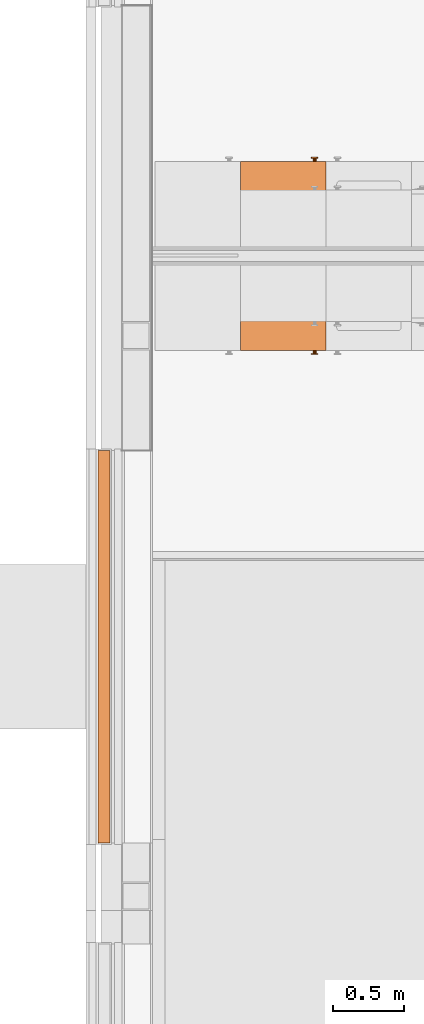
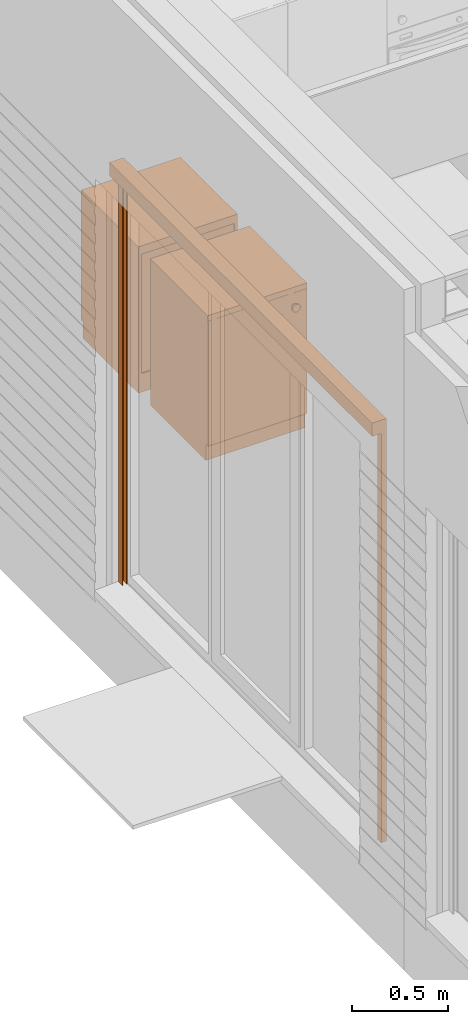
# One storey, part 126 of 165: 3 proxies.
"""IFC2X3 building model written with IfcOpenShell, lengths in millimetres."""

from ifc_helpers import new_model, entity, si_unit, converted_unit, derived_unit, money_unit, direction, frame, origin_with_axes, place, context, subcontext, project, spatial, open_shell, faceted_brep, surface_model, source, transform, mapped, type_object, type_shapes, element, save


model = new_model("IFC2X3")

# Units and contexts
model_context = context("Model", 3, precision=0.01, world=origin_with_axes(), true_north=direction((0.0, 1.0)))
body_context = subcontext(model_context, "Body", "Model", "MODEL_VIEW")
ifc_project = project(units=[si_unit("LENGTHUNIT", "METRE", prefix="MILLI"), si_unit("AREAUNIT", "SQUARE_METRE"), si_unit("VOLUMEUNIT", "CUBIC_METRE"), converted_unit("PLANEANGLEUNIT", "DEGREE", entity("IfcPlaneAngleMeasure", 0.0174532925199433), si_unit("PLANEANGLEUNIT", "RADIAN"), dimensions=[0, 0, 0, 0, 0, 0, 0]), money_unit("EUR"), converted_unit("TIMEUNIT", "Year", entity("IfcTimeMeasure", 31556926.0), si_unit("TIMEUNIT", "SECOND"), dimensions=[0, 0, 1, 0, 0, 0, 0]), si_unit("MASSUNIT", "GRAM", prefix="KILO"), si_unit("THERMODYNAMICTEMPERATUREUNIT", "DEGREE_CELSIUS"), si_unit("LUMINOUSINTENSITYUNIT", "LUMEN"), si_unit("ENERGYUNIT", "JOULE", prefix="MEGA"), derived_unit("THERMALCONDUCTANCEUNIT", [(si_unit("POWERUNIT", "WATT"), 1), (si_unit("LENGTHUNIT", "METRE"), -1), (si_unit("THERMODYNAMICTEMPERATUREUNIT", "KELVIN"), -1)]), derived_unit("SPECIFICHEATCAPACITYUNIT", [(si_unit("ENERGYUNIT", "JOULE"), 1), (si_unit("MASSUNIT", "GRAM", prefix="KILO"), -1), (si_unit("THERMODYNAMICTEMPERATUREUNIT", "KELVIN"), -1)]), derived_unit("MASSDENSITYUNIT", [(si_unit("MASSUNIT", "GRAM", prefix="KILO"), 1), (si_unit("VOLUMEUNIT", "CUBIC_METRE"), -1)])], contexts=[model_context])

# Site, building, storey
site_placement = place(None, origin_with_axes())
site = spatial("IfcSite", under=ifc_project, at=site_placement, Name="Site", CompositionType="ELEMENT")
building_placement = place(site_placement, origin_with_axes())
building = spatial("IfcBuilding", under=site, at=building_placement, Name="Naam gebouw", CompositionType="ELEMENT")
storey_placement = place(building_placement, origin_with_axes())
storey = spatial("IfcBuildingStorey", under=building, at=storey_placement, Name="Begane grond", CompositionType="ELEMENT", Elevation=0.0)

# Proxies
building_element_proxy_type_1 = type_object("IfcBuildingElementProxyType", Name="Onderkast recht 26", PredefinedType="NOTDEFINED")
shared_shape_1 = source(origin_with_axes(), body_context, "Body", "Brep", [
    faceted_brep([(0.0, -600.0, 900.0), (600.0, -600.0, 900.0), (600.0, -600.0, 935.0), (0.0, -600.0, 935.0), (0.0, 0.0, 900.0), (600.0, 0.0, 900.0), (600.0, 0.0, 935.0), (0.0, 0.0, 935.0)], [[[0, 1, 2, 3]], [[0, 4, 5, 1]], [[1, 5, 6, 2]], [[3, 2, 6, 7]], [[4, 0, 3, 7]], [[5, 4, 7, 6]]]),
    faceted_brep([(531.8176930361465, -600.0, 816.9162218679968), (531.2763114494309, -600.0, 814.895758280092), (530.3923048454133, -600.0, 813.0), (529.1925333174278, -600.0, 811.2865486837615), (527.7134513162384, -600.0, 809.8074666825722), (526.0, -600.0, 808.6076951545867), (524.104241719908, -600.0, 807.7236885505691), (522.0837781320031, -600.0, 807.1823069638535), (520.0, -600.0, 806.9999999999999), (517.9162218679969, -600.0, 807.1823069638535), (515.8957582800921, -600.0, 807.7236885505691), (514.0, -600.0, 808.6076951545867), (512.2865486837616, -600.0, 809.8074666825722), (510.8074666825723, -600.0, 811.2865486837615), (509.6076951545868, -600.0, 813.0), (508.7236885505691, -600.0, 814.895758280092), (508.1823069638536, -600.0, 816.9162218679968), (508.0, -600.0, 819.0), (508.1823069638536, -600.0, 821.0837781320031), (508.7236885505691, -600.0, 823.1042417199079), (509.6076951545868, -600.0, 825.0), (510.8074666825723, -600.0, 826.7134513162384), (512.2865486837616, -600.0, 828.1925333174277), (514.0, -600.0, 829.3923048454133), (515.8957582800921, -600.0, 830.2763114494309), (517.9162218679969, -600.0, 830.8176930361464), (520.0, -600.0, 831.0), (522.0837781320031, -600.0, 830.8176930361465), (524.104241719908, -600.0, 830.2763114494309), (526.0, -600.0, 829.3923048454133), (527.7134513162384, -600.0, 828.1925333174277), (529.1925333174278, -600.0, 826.7134513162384), (530.3923048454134, -600.0, 825.0), (531.2763114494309, -600.0, 823.1042417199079), (531.8176930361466, -600.0, 821.0837781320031), (532.0, -600.0, 819.0), (531.8176930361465, -620.0, 816.9162218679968), (531.2763114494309, -620.0, 814.895758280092), (530.3923048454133, -620.0, 813.0), (529.1925333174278, -620.0, 811.2865486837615), (527.7134513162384, -620.0, 809.8074666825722), (526.0, -620.0, 808.6076951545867), (524.104241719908, -620.0, 807.7236885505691), (522.0837781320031, -620.0, 807.1823069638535), (520.0, -620.0, 806.9999999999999), (517.9162218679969, -620.0, 807.1823069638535), (515.8957582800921, -620.0, 807.7236885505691), (514.0, -620.0, 808.6076951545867), (512.2865486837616, -620.0, 809.8074666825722), (510.8074666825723, -620.0, 811.2865486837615), (509.6076951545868, -620.0, 813.0), (508.7236885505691, -620.0, 814.895758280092), (508.1823069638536, -620.0, 816.9162218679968), (508.0, -620.0, 819.0), (508.1823069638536, -620.0, 821.0837781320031), (508.7236885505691, -620.0, 823.1042417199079), (509.6076951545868, -620.0, 825.0), (510.8074666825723, -620.0, 826.7134513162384), (512.2865486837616, -620.0, 828.1925333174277), (514.0, -620.0, 829.3923048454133), (515.8957582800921, -620.0, 830.2763114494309), (517.9162218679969, -620.0, 830.8176930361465), (520.0, -620.0, 831.0), (522.0837781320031, -620.0, 830.8176930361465), (524.104241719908, -620.0, 830.2763114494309), (526.0, -620.0, 829.3923048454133), (527.7134513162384, -620.0, 828.1925333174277), (529.1925333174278, -620.0, 826.7134513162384), (530.3923048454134, -620.0, 825.0), (531.2763114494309, -620.0, 823.1042417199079), (531.8176930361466, -620.0, 821.0837781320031), (532.0, -620.0, 819.0)], [[[0, 1, 2, 3, 4, 5, 6, 7, 8, 9, 10, 11, 12, 13, 14, 15, 16, 17, 18, 19, 20, 21, 22, 23, 24, 25, 26, 27, 28, 29, 30, 31, 32, 33, 34, 35]], [[1, 0, 36, 37]], [[2, 1, 37, 38]], [[3, 2, 38, 39]], [[4, 3, 39, 40]], [[5, 4, 40, 41]], [[6, 5, 41, 42]], [[7, 6, 42, 43]], [[8, 7, 43, 44]], [[9, 8, 44, 45]], [[10, 9, 45, 46]], [[11, 10, 46, 47]], [[12, 11, 47, 48]], [[13, 12, 48, 49]], [[14, 13, 49, 50]], [[15, 14, 50, 51]], [[16, 15, 51, 52]], [[17, 16, 52, 53]], [[18, 17, 53, 54]], [[19, 18, 54, 55]], [[20, 19, 55, 56]], [[21, 20, 56, 57]], [[22, 21, 57, 58]], [[23, 22, 58, 59]], [[24, 23, 59, 60]], [[25, 24, 60, 61]], [[26, 25, 61, 62]], [[27, 26, 62, 63]], [[28, 27, 63, 64]], [[29, 28, 64, 65]], [[30, 29, 65, 66]], [[31, 30, 66, 67]], [[32, 31, 67, 68]], [[33, 32, 68, 69]], [[34, 33, 69, 70]], [[35, 34, 70, 71]], [[0, 35, 71, 36]], [[36, 71, 70, 69, 68, 67, 66, 65, 64, 63, 62, 61, 60, 59, 58, 57, 56, 55, 54, 53, 52, 51, 50, 49, 48, 47, 46, 45, 44, 43, 42, 41, 40, 39, 38, 37]]]),
    faceted_brep([(543.635386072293, -620.0, 814.8324437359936), (542.5526228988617, -620.0, 810.7915165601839), (540.7846096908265, -620.0, 806.9999999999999), (538.3850666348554, -620.0, 803.573097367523), (535.426902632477, -620.0, 800.6149333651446), (532.0, -620.0, 798.2153903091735), (528.2084834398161, -620.0, 796.4473771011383), (524.1675562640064, -620.0, 795.364613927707), (520.0, -620.0, 794.9999999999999), (515.8324437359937, -620.0, 795.364613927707), (511.7915165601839, -620.0, 796.4473771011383), (508.0, -620.0, 798.2153903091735), (504.5730973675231, -620.0, 800.6149333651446), (501.6149333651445, -620.0, 803.573097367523), (499.2153903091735, -620.0, 806.9999999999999), (497.4473771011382, -620.0, 810.7915165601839), (496.364613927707, -620.0, 814.8324437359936), (496.0000000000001, -620.0, 819.0), (496.364613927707, -620.0, 823.1675562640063), (497.4473771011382, -620.0, 827.2084834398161), (499.2153903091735, -620.0, 831.0), (501.6149333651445, -620.0, 834.4269026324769), (504.5730973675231, -620.0, 837.3850666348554), (508.0, -620.0, 839.7846096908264), (511.7915165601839, -620.0, 841.5526228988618), (515.8324437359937, -620.0, 842.6353860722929), (520.0, -620.0, 843.0), (524.1675562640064, -620.0, 842.6353860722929), (528.2084834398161, -620.0, 841.5526228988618), (532.0, -620.0, 839.7846096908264), (535.426902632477, -620.0, 837.3850666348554), (538.3850666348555, -620.0, 834.4269026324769), (540.7846096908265, -620.0, 831.0), (542.5526228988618, -620.0, 827.2084834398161), (543.635386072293, -620.0, 823.1675562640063), (544.0, -620.0, 819.0), (543.635386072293, -630.0, 814.8324437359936), (542.5526228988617, -630.0, 810.7915165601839), (540.7846096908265, -630.0, 806.9999999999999), (538.3850666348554, -630.0, 803.573097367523), (535.426902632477, -630.0, 800.6149333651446), (532.0, -630.0, 798.2153903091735), (528.2084834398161, -630.0, 796.4473771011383), (524.1675562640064, -630.0, 795.364613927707), (520.0, -630.0, 794.9999999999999), (515.8324437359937, -630.0, 795.364613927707), (511.7915165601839, -630.0, 796.4473771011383), (508.0, -630.0, 798.2153903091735), (504.5730973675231, -630.0, 800.6149333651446), (501.6149333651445, -630.0, 803.573097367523), (499.2153903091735, -630.0, 806.9999999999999), (497.4473771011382, -630.0, 810.7915165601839), (496.364613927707, -630.0, 814.8324437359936), (496.0000000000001, -630.0, 819.0), (496.364613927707, -630.0, 823.1675562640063), (497.4473771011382, -630.0, 827.2084834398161), (499.2153903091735, -630.0, 831.0), (501.6149333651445, -630.0, 834.4269026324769), (504.5730973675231, -630.0, 837.3850666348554), (508.0, -630.0, 839.7846096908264), (511.7915165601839, -630.0, 841.5526228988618), (515.8324437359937, -630.0, 842.6353860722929), (520.0, -630.0, 843.0), (524.1675562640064, -630.0, 842.6353860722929), (528.2084834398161, -630.0, 841.5526228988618), (532.0, -630.0, 839.7846096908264), (535.426902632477, -630.0, 837.3850666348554), (538.3850666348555, -630.0, 834.4269026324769), (540.7846096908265, -630.0, 831.0), (542.5526228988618, -630.0, 827.2084834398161), (543.635386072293, -630.0, 823.1675562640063), (544.0, -630.0, 819.0)], [[[0, 1, 2, 3, 4, 5, 6, 7, 8, 9, 10, 11, 12, 13, 14, 15, 16, 17, 18, 19, 20, 21, 22, 23, 24, 25, 26, 27, 28, 29, 30, 31, 32, 33, 34, 35]], [[1, 0, 36, 37]], [[2, 1, 37, 38]], [[3, 2, 38, 39]], [[4, 3, 39, 40]], [[5, 4, 40, 41]], [[6, 5, 41, 42]], [[7, 6, 42, 43]], [[8, 7, 43, 44]], [[9, 8, 44, 45]], [[10, 9, 45, 46]], [[11, 10, 46, 47]], [[12, 11, 47, 48]], [[13, 12, 48, 49]], [[14, 13, 49, 50]], [[15, 14, 50, 51]], [[16, 15, 51, 52]], [[17, 16, 52, 53]], [[18, 17, 53, 54]], [[19, 18, 54, 55]], [[20, 19, 55, 56]], [[21, 20, 56, 57]], [[22, 21, 57, 58]], [[23, 22, 58, 59]], [[24, 23, 59, 60]], [[25, 24, 60, 61]], [[26, 25, 61, 62]], [[27, 26, 62, 63]], [[28, 27, 63, 64]], [[29, 28, 64, 65]], [[30, 29, 65, 66]], [[31, 30, 66, 67]], [[32, 31, 67, 68]], [[33, 32, 68, 69]], [[34, 33, 69, 70]], [[35, 34, 70, 71]], [[0, 35, 71, 36]], [[36, 71, 70, 69, 68, 67, 66, 65, 64, 63, 62, 61, 60, 59, 58, 57, 56, 55, 54, 53, 52, 51, 50, 49, 48, 47, 46, 45, 44, 43, 42, 41, 40, 39, 38, 37]]]),
    faceted_brep([(1.0, -582.0, 101.0), (599.0, -582.0, 101.0), (599.0, -600.0, 101.0), (1.0, -600.0, 101.0), (1.0, -582.0, 899.0), (599.0, -582.0, 899.0), (599.0, -599.9999999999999, 899.0), (1.0, -599.9999999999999, 899.0)], [[[0, 1, 2, 3]], [[0, 4, 5, 1]], [[1, 5, 6, 2]], [[3, 2, 6, 7]], [[4, 0, 3, 7]], [[5, 4, 7, 6]]]),
    faceted_brep([(18.0, -582.0, 100.0), (582.0, -582.0, 100.0), (582.0, -582.0, 118.0), (18.0, -582.0, 118.0), (18.0, 0.0, 100.0), (582.0, 0.0, 100.0), (582.0, 0.0, 118.0), (18.0, 0.0, 118.0)], [[[0, 1, 2, 3]], [[0, 4, 5, 1]], [[1, 5, 6, 2]], [[3, 2, 6, 7]], [[4, 0, 3, 7]], [[5, 4, 7, 6]]]),
    faceted_brep([(18.0, -582.0, 882.0), (18.0, -522.0, 882.0), (582.0, -522.0, 882.0), (582.0, -582.0, 882.0), (18.0, -582.0, 900.0), (18.0, -522.0, 900.0), (582.0, -522.0, 900.0), (582.0, -582.0, 900.0)], [[[0, 1, 2, 3]], [[0, 4, 5, 1]], [[1, 5, 6, 2]], [[3, 2, 6, 7]], [[4, 0, 3, 7]], [[5, 4, 7, 6]]]),
    faceted_brep([(582.0, 0.0, 882.0), (582.0, -60.0, 882.0), (18.0, -60.0, 882.0), (18.0, 0.0, 882.0), (582.0, 0.0, 900.0), (582.0, -60.0, 900.0), (18.0, -60.0, 900.0), (18.0, 0.0, 900.0)], [[[0, 1, 2, 3]], [[0, 4, 5, 1]], [[1, 5, 6, 2]], [[3, 2, 6, 7]], [[4, 0, 3, 7]], [[5, 4, 7, 6]]]),
    faceted_brep([(0.0, 0.0, 100.0), (0.0, -582.0, 100.0), (0.0, -582.0, 900.0), (0.0, 0.0, 900.0), (18.0, 0.0, 100.0), (18.0, -582.0, 100.0), (18.0, -582.0, 900.0), (18.0, 0.0, 900.0)], [[[0, 1, 2, 3]], [[0, 4, 5, 1]], [[1, 5, 6, 2]], [[3, 2, 6, 7]], [[4, 0, 3, 7]], [[5, 4, 7, 6]]]),
    faceted_brep([(600.0, -582.0, 100.0), (600.0, 0.0, 100.0), (600.0, 0.0, 900.0), (600.0, -582.0, 900.0), (582.0, -582.0, 100.0), (582.0, 0.0, 100.0), (582.0, 0.0, 900.0), (582.0, -582.0, 900.0)], [[[0, 1, 2, 3]], [[0, 4, 5, 1]], [[1, 5, 6, 2]], [[3, 2, 6, 7]], [[4, 0, 3, 7]], [[5, 4, 7, 6]]]),
    faceted_brep([(582.0, -9.0, 118.0), (18.00000000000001, -9.0, 118.0), (18.00000000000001, -9.0, 882.0), (582.0, -9.0, 882.0), (582.0, -18.0, 118.0), (18.00000000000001, -18.0, 118.0), (18.00000000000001, -18.0, 882.0), (582.0, -18.0, 882.0)], [[[0, 1, 2, 3]], [[0, 4, 5, 1]], [[1, 5, 6, 2]], [[3, 2, 6, 7]], [[4, 0, 3, 7]], [[5, 4, 7, 6]]]),
    faceted_brep([(0.0, -582.0, 0.0), (600.0, -582.0, 0.0), (600.0, -582.0, 100.0), (0.0, -582.0, 100.0), (0.0, 0.0, 0.0), (600.0, 0.0, 0.0), (600.0, 0.0, 100.0), (0.0, 0.0, 100.0)], [[[0, 1, 2, 3]], [[0, 4, 5, 1]], [[1, 5, 6, 2]], [[3, 2, 6, 7]], [[4, 0, 3, 7]], [[5, 4, 7, 6]]]),
])
proxy_1_placement = place(storey_placement, frame((832.0000001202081, 11307.50070589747, 0.0), z_axis=(0.0, 0.0, 1.0), x_axis=(1.0, 0.0, 0.0)))
element("IfcBuildingElementProxy", 1, at=proxy_1_placement, inside=storey, type_object=building_element_proxy_type_1, Name="_Leeg", context=body_context, shape_type="MappedRepresentation", body=[
    mapped(shared_shape_1, transform((0.0, 0.0, 0.0))),
])
building_element_proxy_type_2 = type_object("IfcBuildingElementProxyType", Name="Screen 26 KM", PredefinedType="NOTDEFINED")
shared_shape_2 = source(origin_with_axes(), body_context, "Body", "SurfaceModel", [
    faceted_brep([(0.0, 0.0, 0.0), (0.0, -30.0, 0.0), (0.0, -30.0, 2615.0), (0.0, 0.0, 2615.0), (40.0, 0.0, 0.0), (40.0, -4.999999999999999, 0.0), (37.0, -4.999999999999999, 0.0), (37.0, -3.0, 0.0), (3.0, -3.0, 0.0), (3.0, -27.0, 0.0), (37.0, -27.0, 0.0), (37.0, -25.0, 0.0), (40.0, -25.0, 0.0), (40.0, -30.0, 0.0), (40.0, -30.0, 2615.0), (40.0, -25.0, 2615.0), (37.0, -25.0, 2615.0), (37.0, -27.0, 2615.0), (3.0, -27.0, 2615.0), (3.0, -3.0, 2615.0), (37.0, -3.0, 2615.0), (37.0, -4.999999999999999, 2615.0), (40.0, -4.999999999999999, 2615.0), (40.0, 0.0, 2615.0)], [[[0, 1, 2, 3]], [[0, 4, 5, 6, 7, 8, 9, 10, 11, 12, 13, 1]], [[1, 13, 14, 2]], [[3, 2, 14, 15, 16, 17, 18, 19, 20, 21, 22, 23]], [[4, 0, 3, 23]], [[5, 4, 23, 22]], [[6, 5, 22, 21]], [[7, 6, 21, 20]], [[8, 7, 20, 19]], [[9, 8, 19, 18]], [[10, 9, 18, 17]], [[11, 10, 17, 16]], [[12, 11, 16, 15]], [[13, 12, 15, 14]]]),
    faceted_brep([(2750.0, 0.0, 0.0), (2750.0, 0.0, 2615.0), (2750.0, -30.0, 2615.0), (2750.0, -30.0, 0.0), (2710.0, 0.0, 0.0), (2710.0, 0.0, 2615.0), (2710.0, -4.999999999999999, 2615.0), (2713.0, -4.999999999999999, 2615.0), (2713.0, -3.0, 2615.0), (2747.0, -3.0, 2615.0), (2747.0, -27.0, 2615.0), (2713.0, -27.0, 2615.0), (2713.0, -25.0, 2615.0), (2710.0, -25.0, 2615.0), (2710.0, -30.0, 2615.0), (2710.0, -30.0, 0.0), (2710.0, -25.0, 0.0), (2713.0, -25.0, 0.0), (2713.0, -27.0, 0.0), (2747.0, -27.0, 0.0), (2747.0, -3.0, 0.0), (2713.0, -3.0, 0.0), (2713.0, -4.999999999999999, 0.0), (2710.0, -4.999999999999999, 0.0)], [[[0, 1, 2, 3]], [[4, 5, 1, 0]], [[1, 5, 6, 7, 8, 9, 10, 11, 12, 13, 14, 2]], [[3, 2, 14, 15]], [[0, 3, 15, 16, 17, 18, 19, 20, 21, 22, 23, 4]], [[23, 6, 5, 4]], [[22, 7, 6, 23]], [[21, 8, 7, 22]], [[20, 9, 8, 21]], [[19, 10, 9, 20]], [[18, 11, 10, 19]], [[17, 12, 11, 18]], [[16, 13, 12, 17]], [[15, 14, 13, 16]]]),
    surface_model("IfcShellBasedSurfaceModel", [(0.0, 0.0, 2700.0), (0.0, 0.0, 2615.0), (0.0, -85.0, 2615.0), (0.0, -85.0, 2700.0)], [open_shell([[[0, 1, 2, 3]]])]),
    surface_model("IfcShellBasedSurfaceModel", [(0.01, 0.0, 2700.0), (0.009999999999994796, -85.0, 2700.0), (2749.99, -85.00000000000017, 2700.0), (2749.99, 0.0, 2700.0), (0.01000000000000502, 0.0, 2618.0), (0.01000000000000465, -6.0, 2618.0), (0.01000000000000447, -6.0, 2621.0), (0.01000000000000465, -3.0, 2621.0), (0.01, -3.0, 2697.0), (0.009999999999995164, -82.0, 2697.0), (0.01, -82.0, 2618.0), (0.01000000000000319, -30.0, 2618.0), (0.01000000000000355, -30.0, 2612.0), (0.01000000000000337, -33.0, 2612.0), (0.01000000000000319, -33.0, 2615.0), (0.01, -85.0, 2615.0), (2749.99, -85.00000000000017, 2615.0), (2749.99, -33.00000000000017, 2615.0), (2749.99, -33.00000000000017, 2612.0), (2749.99, -30.00000000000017, 2612.0), (2749.99, -30.00000000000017, 2618.0), (2749.99, -82.00000000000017, 2618.0), (2749.99, -82.00000000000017, 2697.0), (2749.99, -3.000000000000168, 2697.0), (2749.99, -3.000000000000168, 2621.0), (2749.99, -6.000000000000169, 2621.0), (2749.99, -6.000000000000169, 2618.0), (2749.99, 0.0, 2618.0)], [open_shell([[[0, 1, 2, 3]], [[0, 4, 5, 6, 7, 8, 9, 10, 11, 12, 13, 14, 15, 1]], [[1, 15, 16, 2]], [[3, 2, 16, 17, 18, 19, 20, 21, 22, 23, 24, 25, 26, 27]], [[4, 0, 3, 27]], [[13, 12, 19, 18]], [[14, 13, 18, 17]], [[15, 14, 17, 16]]])]),
    surface_model("IfcShellBasedSurfaceModel", [(2749.99, 0.0, 2700.0), (2749.99, 0.0, 2615.0), (2749.99, -85.00000000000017, 2615.0), (2749.99, -85.00000000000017, 2700.0)], [open_shell([[[0, 1, 2, 3]]])]),
])
type_shapes(building_element_proxy_type_2, [shared_shape_2])
proxy_2_placement = place(storey_placement, frame((-81.99999999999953, 10005.0, -8.0), z_axis=(0.0, 0.0, 1.0), x_axis=(0.0, -1.0, 0.0)))
element("IfcBuildingElementProxy", 2, at=proxy_2_placement, inside=storey, type_object=building_element_proxy_type_2, Name="_Object-x", context=body_context, shape_type="MappedRepresentation", body=[
    mapped(shared_shape_2, transform((0.0, 0.0, 0.0))),
])
shared_shape_3 = source(origin_with_axes(), body_context, "Body", "Brep", [
    faceted_brep([(0.0, -600.0, 900.0), (0.0, -600.0, 935.0), (-600.0, -600.0, 935.0), (-600.0, -600.0, 900.0), (0.0, 0.0, 900.0), (0.0, 0.0, 935.0), (-600.0, 0.0, 935.0), (-600.0, 0.0, 900.0)], [[[0, 1, 2, 3]], [[4, 5, 1, 0]], [[1, 5, 6, 2]], [[3, 2, 6, 7]], [[0, 3, 7, 4]], [[7, 6, 5, 4]]]),
    faceted_brep([(-531.8176930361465, -600.0, 816.9162218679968), (-532.0, -600.0, 819.0), (-531.8176930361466, -600.0, 821.0837781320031), (-531.2763114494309, -600.0, 823.1042417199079), (-530.3923048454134, -600.0, 825.0), (-529.1925333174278, -600.0, 826.7134513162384), (-527.7134513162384, -600.0, 828.1925333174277), (-526.0, -600.0, 829.3923048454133), (-524.104241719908, -600.0, 830.2763114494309), (-522.0837781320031, -600.0, 830.8176930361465), (-520.0, -600.0, 831.0), (-517.9162218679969, -600.0, 830.8176930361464), (-515.8957582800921, -600.0, 830.2763114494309), (-514.0, -600.0, 829.3923048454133), (-512.2865486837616, -600.0, 828.1925333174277), (-510.8074666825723, -600.0, 826.7134513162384), (-509.6076951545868, -600.0, 825.0), (-508.7236885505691, -600.0, 823.1042417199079), (-508.1823069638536, -600.0, 821.0837781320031), (-508.0, -600.0, 819.0), (-508.1823069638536, -600.0, 816.9162218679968), (-508.7236885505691, -600.0, 814.895758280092), (-509.6076951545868, -600.0, 813.0), (-510.8074666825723, -600.0, 811.2865486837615), (-512.2865486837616, -600.0, 809.8074666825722), (-514.0, -600.0, 808.6076951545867), (-515.8957582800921, -600.0, 807.7236885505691), (-517.9162218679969, -600.0, 807.1823069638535), (-520.0, -600.0, 806.9999999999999), (-522.0837781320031, -600.0, 807.1823069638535), (-524.104241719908, -600.0, 807.7236885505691), (-526.0, -600.0, 808.6076951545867), (-527.7134513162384, -600.0, 809.8074666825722), (-529.1925333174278, -600.0, 811.2865486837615), (-530.3923048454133, -600.0, 813.0), (-531.2763114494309, -600.0, 814.895758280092), (-531.8176930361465, -620.0, 816.9162218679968), (-532.0, -620.0, 819.0), (-531.8176930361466, -620.0, 821.0837781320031), (-531.2763114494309, -620.0, 823.1042417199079), (-530.3923048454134, -620.0, 825.0), (-529.1925333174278, -620.0, 826.7134513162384), (-527.7134513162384, -620.0, 828.1925333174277), (-526.0, -620.0, 829.3923048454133), (-524.104241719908, -620.0, 830.2763114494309), (-522.0837781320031, -620.0, 830.8176930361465), (-520.0, -620.0, 831.0), (-517.9162218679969, -620.0, 830.8176930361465), (-515.8957582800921, -620.0, 830.2763114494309), (-514.0, -620.0, 829.3923048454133), (-512.2865486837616, -620.0, 828.1925333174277), (-510.8074666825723, -620.0, 826.7134513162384), (-509.6076951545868, -620.0, 825.0), (-508.7236885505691, -620.0, 823.1042417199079), (-508.1823069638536, -620.0, 821.0837781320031), (-508.0, -620.0, 819.0), (-508.1823069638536, -620.0, 816.9162218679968), (-508.7236885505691, -620.0, 814.895758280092), (-509.6076951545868, -620.0, 813.0), (-510.8074666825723, -620.0, 811.2865486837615), (-512.2865486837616, -620.0, 809.8074666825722), (-514.0, -620.0, 808.6076951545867), (-515.8957582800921, -620.0, 807.7236885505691), (-517.9162218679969, -620.0, 807.1823069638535), (-520.0, -620.0, 806.9999999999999), (-522.0837781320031, -620.0, 807.1823069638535), (-524.104241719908, -620.0, 807.7236885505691), (-526.0, -620.0, 808.6076951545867), (-527.7134513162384, -620.0, 809.8074666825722), (-529.1925333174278, -620.0, 811.2865486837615), (-530.3923048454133, -620.0, 813.0), (-531.2763114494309, -620.0, 814.895758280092)], [[[0, 1, 2, 3, 4, 5, 6, 7, 8, 9, 10, 11, 12, 13, 14, 15, 16, 17, 18, 19, 20, 21, 22, 23, 24, 25, 26, 27, 28, 29, 30, 31, 32, 33, 34, 35]], [[0, 36, 37, 1]], [[1, 37, 38, 2]], [[2, 38, 39, 3]], [[3, 39, 40, 4]], [[4, 40, 41, 5]], [[5, 41, 42, 6]], [[6, 42, 43, 7]], [[7, 43, 44, 8]], [[8, 44, 45, 9]], [[9, 45, 46, 10]], [[10, 46, 47, 11]], [[11, 47, 48, 12]], [[12, 48, 49, 13]], [[13, 49, 50, 14]], [[14, 50, 51, 15]], [[15, 51, 52, 16]], [[16, 52, 53, 17]], [[17, 53, 54, 18]], [[18, 54, 55, 19]], [[19, 55, 56, 20]], [[20, 56, 57, 21]], [[21, 57, 58, 22]], [[22, 58, 59, 23]], [[23, 59, 60, 24]], [[24, 60, 61, 25]], [[25, 61, 62, 26]], [[26, 62, 63, 27]], [[27, 63, 64, 28]], [[28, 64, 65, 29]], [[29, 65, 66, 30]], [[30, 66, 67, 31]], [[31, 67, 68, 32]], [[32, 68, 69, 33]], [[33, 69, 70, 34]], [[34, 70, 71, 35]], [[35, 71, 36, 0]], [[36, 71, 70, 69, 68, 67, 66, 65, 64, 63, 62, 61, 60, 59, 58, 57, 56, 55, 54, 53, 52, 51, 50, 49, 48, 47, 46, 45, 44, 43, 42, 41, 40, 39, 38, 37]]]),
    faceted_brep([(-543.635386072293, -620.0, 814.8324437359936), (-544.0, -620.0, 819.0), (-543.635386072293, -620.0, 823.1675562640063), (-542.5526228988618, -620.0, 827.2084834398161), (-540.7846096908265, -620.0, 831.0), (-538.3850666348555, -620.0, 834.4269026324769), (-535.426902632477, -620.0, 837.3850666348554), (-532.0, -620.0, 839.7846096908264), (-528.2084834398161, -620.0, 841.5526228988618), (-524.1675562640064, -620.0, 842.6353860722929), (-520.0, -620.0, 843.0), (-515.8324437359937, -620.0, 842.6353860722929), (-511.7915165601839, -620.0, 841.5526228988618), (-508.0, -620.0, 839.7846096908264), (-504.5730973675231, -620.0, 837.3850666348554), (-501.6149333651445, -620.0, 834.4269026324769), (-499.2153903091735, -620.0, 831.0), (-497.4473771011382, -620.0, 827.2084834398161), (-496.364613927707, -620.0, 823.1675562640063), (-496.0000000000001, -620.0, 819.0), (-496.364613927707, -620.0, 814.8324437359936), (-497.4473771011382, -620.0, 810.7915165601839), (-499.2153903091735, -620.0, 806.9999999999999), (-501.6149333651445, -620.0, 803.573097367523), (-504.5730973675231, -620.0, 800.6149333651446), (-508.0, -620.0, 798.2153903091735), (-511.7915165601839, -620.0, 796.4473771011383), (-515.8324437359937, -620.0, 795.364613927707), (-520.0, -620.0, 794.9999999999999), (-524.1675562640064, -620.0, 795.364613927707), (-528.2084834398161, -620.0, 796.4473771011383), (-532.0, -620.0, 798.2153903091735), (-535.426902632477, -620.0, 800.6149333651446), (-538.3850666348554, -620.0, 803.573097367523), (-540.7846096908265, -620.0, 806.9999999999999), (-542.5526228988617, -620.0, 810.7915165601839), (-543.635386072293, -630.0, 814.8324437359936), (-544.0, -630.0, 819.0), (-543.635386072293, -630.0, 823.1675562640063), (-542.5526228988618, -630.0, 827.2084834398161), (-540.7846096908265, -630.0, 831.0), (-538.3850666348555, -630.0, 834.4269026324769), (-535.426902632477, -630.0, 837.3850666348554), (-532.0, -630.0, 839.7846096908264), (-528.2084834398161, -630.0, 841.5526228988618), (-524.1675562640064, -630.0, 842.6353860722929), (-520.0, -630.0, 843.0), (-515.8324437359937, -630.0, 842.6353860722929), (-511.7915165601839, -630.0, 841.5526228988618), (-508.0, -630.0, 839.7846096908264), (-504.5730973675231, -630.0, 837.3850666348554), (-501.6149333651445, -630.0, 834.4269026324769), (-499.2153903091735, -630.0, 831.0), (-497.4473771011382, -630.0, 827.2084834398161), (-496.364613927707, -630.0, 823.1675562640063), (-496.0000000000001, -630.0, 819.0), (-496.364613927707, -630.0, 814.8324437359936), (-497.4473771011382, -630.0, 810.7915165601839), (-499.2153903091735, -630.0, 806.9999999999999), (-501.6149333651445, -630.0, 803.573097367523), (-504.5730973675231, -630.0, 800.6149333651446), (-508.0, -630.0, 798.2153903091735), (-511.7915165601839, -630.0, 796.4473771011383), (-515.8324437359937, -630.0, 795.364613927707), (-520.0, -630.0, 794.9999999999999), (-524.1675562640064, -630.0, 795.364613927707), (-528.2084834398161, -630.0, 796.4473771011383), (-532.0, -630.0, 798.2153903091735), (-535.426902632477, -630.0, 800.6149333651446), (-538.3850666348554, -630.0, 803.573097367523), (-540.7846096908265, -630.0, 806.9999999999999), (-542.5526228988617, -630.0, 810.7915165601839)], [[[0, 1, 2, 3, 4, 5, 6, 7, 8, 9, 10, 11, 12, 13, 14, 15, 16, 17, 18, 19, 20, 21, 22, 23, 24, 25, 26, 27, 28, 29, 30, 31, 32, 33, 34, 35]], [[0, 36, 37, 1]], [[1, 37, 38, 2]], [[2, 38, 39, 3]], [[3, 39, 40, 4]], [[4, 40, 41, 5]], [[5, 41, 42, 6]], [[6, 42, 43, 7]], [[7, 43, 44, 8]], [[8, 44, 45, 9]], [[9, 45, 46, 10]], [[10, 46, 47, 11]], [[11, 47, 48, 12]], [[12, 48, 49, 13]], [[13, 49, 50, 14]], [[14, 50, 51, 15]], [[15, 51, 52, 16]], [[16, 52, 53, 17]], [[17, 53, 54, 18]], [[18, 54, 55, 19]], [[19, 55, 56, 20]], [[20, 56, 57, 21]], [[21, 57, 58, 22]], [[22, 58, 59, 23]], [[23, 59, 60, 24]], [[24, 60, 61, 25]], [[25, 61, 62, 26]], [[26, 62, 63, 27]], [[27, 63, 64, 28]], [[28, 64, 65, 29]], [[29, 65, 66, 30]], [[30, 66, 67, 31]], [[31, 67, 68, 32]], [[32, 68, 69, 33]], [[33, 69, 70, 34]], [[34, 70, 71, 35]], [[35, 71, 36, 0]], [[36, 71, 70, 69, 68, 67, 66, 65, 64, 63, 62, 61, 60, 59, 58, 57, 56, 55, 54, 53, 52, 51, 50, 49, 48, 47, 46, 45, 44, 43, 42, 41, 40, 39, 38, 37]]]),
    faceted_brep([(-1.0, -582.0, 101.0), (-1.0, -600.0, 101.0), (-599.0, -600.0, 101.0), (-599.0, -582.0, 101.0), (-1.0, -582.0, 899.0), (-1.0, -599.9999999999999, 899.0), (-599.0, -599.9999999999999, 899.0), (-599.0, -582.0, 899.0)], [[[0, 1, 2, 3]], [[4, 5, 1, 0]], [[1, 5, 6, 2]], [[3, 2, 6, 7]], [[0, 3, 7, 4]], [[7, 6, 5, 4]]]),
    faceted_brep([(-18.0, -582.0, 100.0), (-18.0, -582.0, 118.0), (-582.0, -582.0, 118.0), (-582.0, -582.0, 100.0), (-18.0, 0.0, 100.0), (-18.0, 0.0, 118.0), (-582.0, 0.0, 118.0), (-582.0, 0.0, 100.0)], [[[0, 1, 2, 3]], [[4, 5, 1, 0]], [[1, 5, 6, 2]], [[3, 2, 6, 7]], [[0, 3, 7, 4]], [[7, 6, 5, 4]]]),
    faceted_brep([(-18.0, -582.0, 882.0), (-582.0, -582.0, 882.0), (-582.0, -522.0, 882.0), (-18.0, -522.0, 882.0), (-18.0, -582.0, 900.0), (-582.0, -582.0, 900.0), (-582.0, -522.0, 900.0), (-18.0, -522.0, 900.0)], [[[0, 1, 2, 3]], [[4, 5, 1, 0]], [[1, 5, 6, 2]], [[3, 2, 6, 7]], [[0, 3, 7, 4]], [[7, 6, 5, 4]]]),
    faceted_brep([(-582.0, 0.0, 882.0), (-18.0, 0.0, 882.0), (-18.0, -60.0, 882.0), (-582.0, -60.0, 882.0), (-582.0, 0.0, 900.0), (-18.0, 0.0, 900.0), (-18.0, -60.0, 900.0), (-582.0, -60.0, 900.0)], [[[0, 1, 2, 3]], [[4, 5, 1, 0]], [[1, 5, 6, 2]], [[3, 2, 6, 7]], [[0, 3, 7, 4]], [[7, 6, 5, 4]]]),
    faceted_brep([(0.0, 0.0, 100.0), (0.0, 0.0, 900.0), (0.0, -582.0, 900.0), (0.0, -582.0, 100.0), (-18.0, 0.0, 100.0), (-18.0, 0.0, 900.0), (-18.0, -582.0, 900.0), (-18.0, -582.0, 100.0)], [[[0, 1, 2, 3]], [[4, 5, 1, 0]], [[1, 5, 6, 2]], [[3, 2, 6, 7]], [[0, 3, 7, 4]], [[7, 6, 5, 4]]]),
    faceted_brep([(-600.0, -582.0, 100.0), (-600.0, -582.0, 900.0), (-600.0, 0.0, 900.0), (-600.0, 0.0, 100.0), (-582.0, -582.0, 100.0), (-582.0, -582.0, 900.0), (-582.0, 0.0, 900.0), (-582.0, 0.0, 100.0)], [[[0, 1, 2, 3]], [[4, 5, 1, 0]], [[1, 5, 6, 2]], [[3, 2, 6, 7]], [[0, 3, 7, 4]], [[7, 6, 5, 4]]]),
    faceted_brep([(-582.0, -9.0, 118.0), (-582.0, -9.0, 882.0), (-18.00000000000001, -9.0, 882.0), (-18.00000000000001, -9.0, 118.0), (-582.0, -18.0, 118.0), (-582.0, -18.0, 882.0), (-18.00000000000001, -18.0, 882.0), (-18.00000000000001, -18.0, 118.0)], [[[0, 1, 2, 3]], [[4, 5, 1, 0]], [[1, 5, 6, 2]], [[3, 2, 6, 7]], [[0, 3, 7, 4]], [[7, 6, 5, 4]]]),
    faceted_brep([(0.0, -582.0, 0.0), (0.0, -582.0, 100.0), (-600.0, -582.0, 100.0), (-600.0, -582.0, 0.0), (0.0, 0.0, 0.0), (0.0, 0.0, 100.0), (-600.0, 0.0, 100.0), (-600.0, 0.0, 0.0)], [[[0, 1, 2, 3]], [[4, 5, 1, 0]], [[1, 5, 6, 2]], [[3, 2, 6, 7]], [[0, 3, 7, 4]], [[7, 6, 5, 4]]]),
])
type_shapes(building_element_proxy_type_1, [shared_shape_1, shared_shape_3])
proxy_3_placement = place(storey_placement, frame((832.0005705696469, 11432.51728030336, 0.0), z_axis=(0.0, 0.0, 1.0), x_axis=(-0.9999999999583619, -9.125581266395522e-06, 0.0)))
element("IfcBuildingElementProxy", 3, at=proxy_3_placement, inside=storey, type_object=building_element_proxy_type_1, Name="_Leeg", context=body_context, shape_type="MappedRepresentation", body=[
    mapped(shared_shape_3, transform((0.0, 0.0, 0.0))),
])

save(model, "model.ifc")
